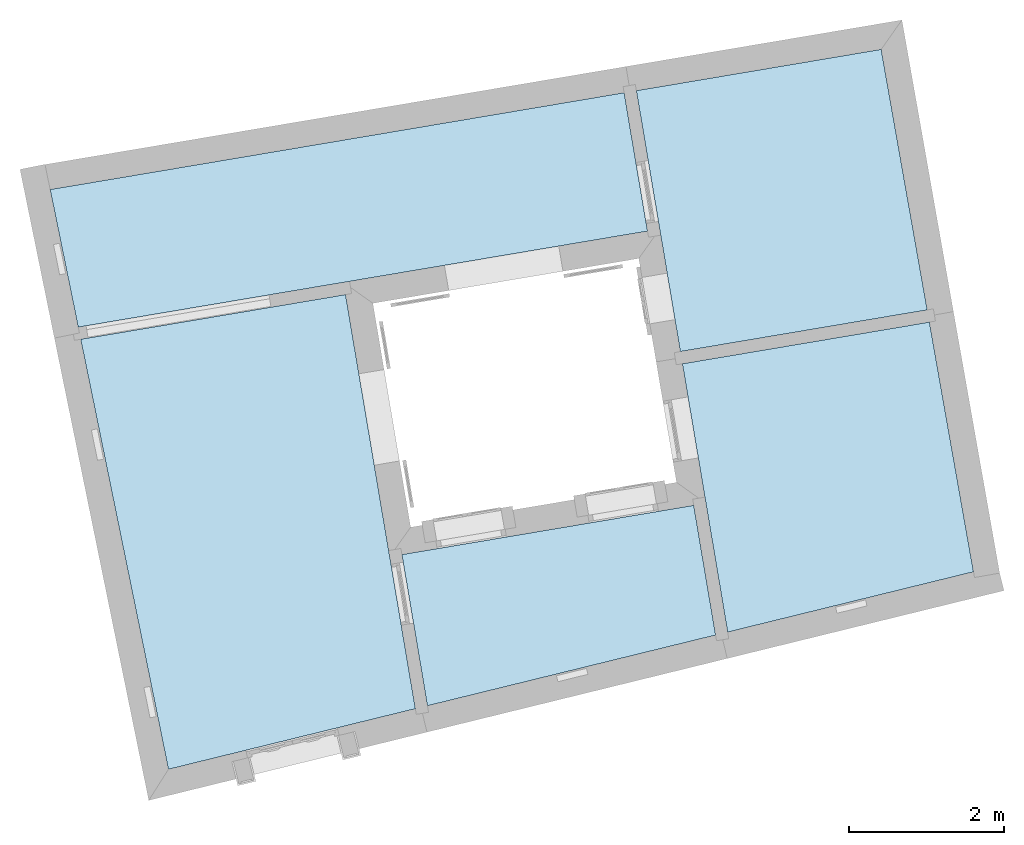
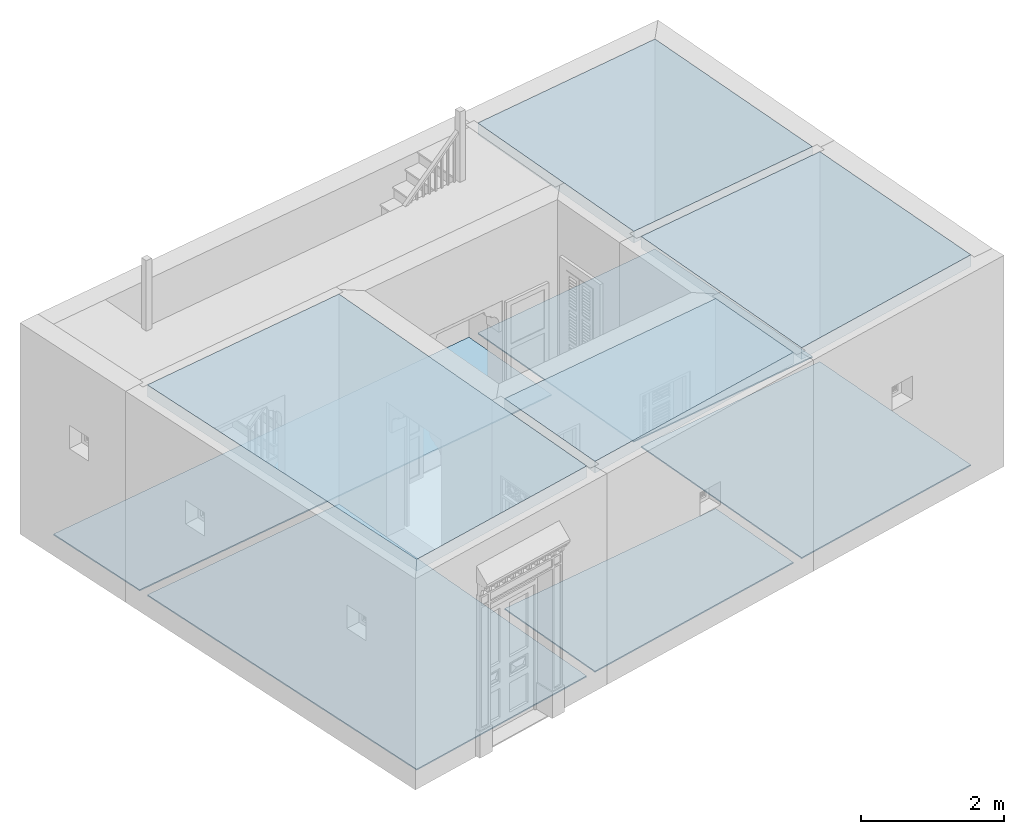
# One storey, part 1 of 15: 9 slabs.
"""IFC4 building model written with IfcOpenShell, lengths in metres."""

from ifc_helpers import new_model, si_unit, frame, origin_with_axes, place, context, subcontext, project, spatial, polyline, outline, extrude, element, save


model = new_model("IFC4")

# Units and contexts
model_context = context("Model", 3, world=origin_with_axes())
body_context = subcontext(model_context, "Body", "Model", "MODEL_VIEW")
ifc_project = project(units=[si_unit("PLANEANGLEUNIT", "RADIAN"), si_unit("MASSUNIT", "GRAM", prefix="KILO"), si_unit("FORCEUNIT", "NEWTON", prefix="KILO"), si_unit("LENGTHUNIT", "METRE"), si_unit("AREAUNIT", "SQUARE_METRE"), si_unit("VOLUMEUNIT", "CUBIC_METRE")], contexts=[model_context, model_context])

# Site, building, storey
site_placement = place(None, origin_with_axes())
site = spatial("IfcSite", under=ifc_project, at=site_placement, Name="Site plot-6", CompositionType="ELEMENT")
building_placement = place(None, origin_with_axes())
building = spatial("IfcBuilding", under=site, at=building_placement, Name="Building plot-6", CompositionType="ELEMENT")
storey_placement = place(None, origin_with_axes())
storey = spatial("IfcBuildingStorey", under=building, at=storey_placement, Name="plot-6 0", CompositionType="ELEMENT", Elevation=0.0)

# Slabs
slab_1_placement = place(storey_placement, frame((-2.65448575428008, 1.67836600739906, 3.4)))
element("IfcSlab", 1, at=slab_1_placement, inside=storey, Name="My Slab", ObjectType="Slab", PredefinedType="FLOOR", context=body_context, shape_type="SweptSolid", body=[
    extrude(outline(polyline([(0.0, 0.0), (0.585438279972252, -3.47151243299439), (3.76574565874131, -2.69147856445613), (3.19492557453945, 0.538794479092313), (0.0, 0.0)])), origin_with_axes(), (0.0, 0.0, 1.0), 0.2),
])
slab_2_placement = place(storey_placement, frame((-2.65448575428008, 1.67836600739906, 0.0)))
element("IfcSlab", 2, at=slab_2_placement, inside=storey, Name="My Slab", ObjectType="Slab", PredefinedType="FLOOR", context=body_context, shape_type="SweptSolid", body=[
    extrude(outline(polyline([(0.0, 0.0), (0.585438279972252, -3.47151243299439), (3.76574565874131, -2.69147856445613), (3.19492557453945, 0.538794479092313), (0.0, 0.0)])), origin_with_axes(), (0.0, 0.0, 1.0), 0.02),
])
slab_3_placement = place(storey_placement, frame((0.512596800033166, 2.3747242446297, 3.4)))
element("IfcSlab", 3, at=slab_3_placement, inside=storey, Name="My Slab", ObjectType="Slab", PredefinedType="FLOOR", context=body_context, shape_type="SweptSolid", body=[
    extrude(outline(polyline([(0.0, 0.0), (-0.595585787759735, 3.37042225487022), (-3.76283177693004, 2.83629568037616), (-3.19368937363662, -0.538586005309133), (0.0, 0.0)])), origin_with_axes(), (0.0, 0.0, 1.0), 0.2),
])
slab_4_placement = place(storey_placement, frame((0.512596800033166, 2.3747242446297, 0.0)))
element("IfcSlab", 4, at=slab_4_placement, inside=storey, Name="My Slab", ObjectType="Slab", PredefinedType="FLOOR", context=body_context, shape_type="SweptSolid", body=[
    extrude(outline(polyline([(0.0, 0.0), (-0.595585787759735, 3.37042225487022), (-3.76283177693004, 2.83629568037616), (-3.19368937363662, -0.538586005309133), (0.0, 0.0)])), origin_with_axes(), (0.0, 0.0, 1.0), 0.02),
])
slab_5_placement = place(storey_placement, frame((-6.28261815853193, -0.789783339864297, 3.4)))
element("IfcSlab", 5, at=slab_5_placement, inside=storey, Name="My Slab", ObjectType="Slab", PredefinedType="FLOOR", context=body_context, shape_type="SweptSolid", body=[
    extrude(outline(polyline([(0.0, 0.0), (0.329848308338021, -1.9559235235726), (4.05775633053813, -1.04157966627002), (3.77475088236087, 0.636576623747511), (0.0, 0.0)])), origin_with_axes(), (0.0, 0.0, 1.0), 0.2),
])
slab_6_placement = place(storey_placement, frame((-6.28261815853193, -0.789783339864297, 0.0)))
element("IfcSlab", 6, at=slab_6_placement, inside=storey, Name="My Slab", ObjectType="Slab", PredefinedType="FLOOR", context=body_context, shape_type="SweptSolid", body=[
    extrude(outline(polyline([(0.0, 0.0), (0.329848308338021, -1.9559235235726), (4.05775633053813, -1.04157966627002), (3.77475088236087, 0.636576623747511), (0.0, 0.0)])), origin_with_axes(), (0.0, 0.0, 1.0), 0.02),
])
slab_7_placement = place(storey_placement, frame((-3.10605318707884, 3.39389619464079, 0.0)))
element("IfcSlab", 7, at=slab_7_placement, inside=storey, Name="My Slab", ObjectType="Slab", PredefinedType="FLOOR", context=body_context, shape_type="SweptSolid", body=[
    extrude(outline(polyline([(0.0, 0.0), (-0.301954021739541, 1.7905169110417), (-7.72700237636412, 0.538351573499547), (-7.36373226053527, -1.24182494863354), (0.0, 0.0)])), origin_with_axes(), (0.0, 0.0, 1.0), 0.02),
])
slab_8_placement = place(storey_placement, frame((-7.01196948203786, 2.5729405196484, 3.4)))
element("IfcSlab", 8, at=slab_8_placement, inside=storey, Name="My Slab", ObjectType="Slab", PredefinedType="FLOOR", context=body_context, shape_type="SweptSolid", body=[
    extrude(outline(polyline([(0.0, 0.0), (-3.42580625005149, -0.577730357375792), (-2.29069062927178, -6.14027483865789), (0.90338527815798, -5.35686396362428), (0.0, 0.0)])), origin_with_axes(), (0.0, 0.0, 1.0), 0.2),
])
slab_9_placement = place(storey_placement, frame((-7.01196948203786, 2.5729405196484, 0.0)))
element("IfcSlab", 9, at=slab_9_placement, inside=storey, Name="My Slab", ObjectType="Slab", PredefinedType="FLOOR", context=body_context, shape_type="SweptSolid", body=[
    extrude(outline(polyline([(0.0, 0.0), (-3.42580625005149, -0.577730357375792), (-2.29069062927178, -6.14027483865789), (0.90338527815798, -5.35686396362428), (0.0, 0.0)])), origin_with_axes(), (0.0, 0.0, 1.0), 0.02),
])

save(model, "model.ifc")
